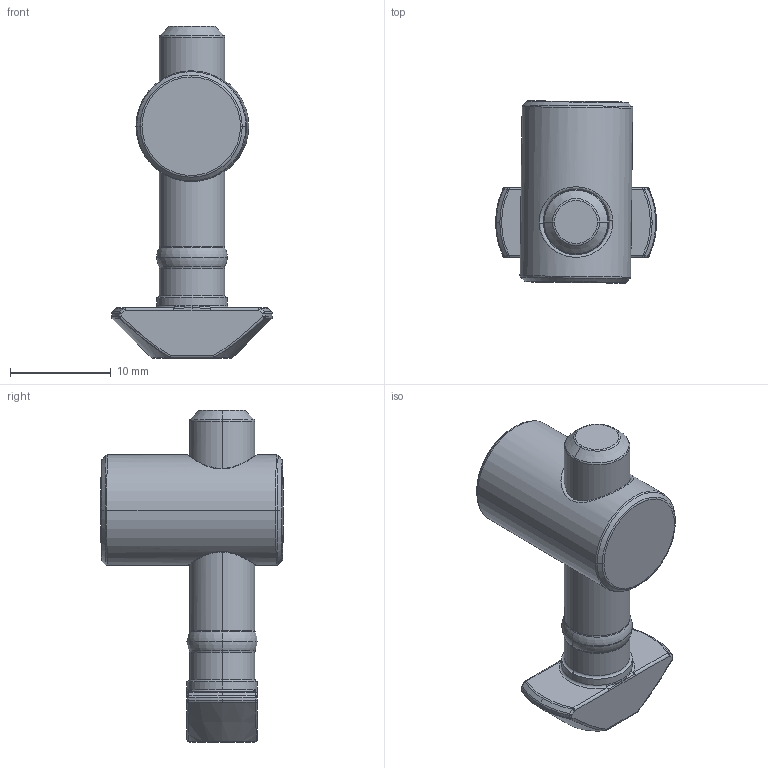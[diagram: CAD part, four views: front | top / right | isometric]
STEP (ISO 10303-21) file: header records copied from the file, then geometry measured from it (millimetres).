
FILE_DESCRIPTION (( 'STEP AP203' ), '1' );
FILE_NAME ('5212.STEP', '2016-04-10T13:02:00', ( '' ), ( '' ), 'SwSTEP 2.0', 'SolidWorks 2014', '' );
FILE_SCHEMA (( 'CONFIG_CONTROL_DESIGN' ));
Length unit declared in the file: millimetre
Products named in the file (3): 鍔錓 鵽鎀 90; Ãàéêà óäåðæèâàþùàÿ Ì8 îòâ 6.5; 5212
Assembly tree (2 placements, depth 2):
  5212
    鍔錓 鵽鎀 90
    Ãàéêà óäåðæèâàþùàÿ Ì8 îòâ 6.5
Bounding box: 16 x 18.12 x 33 mm (x, y, z)
Volume: 2253.9 mm3; surface area: 2060.3 mm2
Topology: 2 solids, 2 shells, 142 faces, 331 edges, 177 vertices
Faces by surface type: bspline 38, torus 37, cylinder 29, sphere 16, cone 12, plane 10
Entity records: 10685 total; most frequent: CARTESIAN_POINT 7518, ORIENTED_EDGE 630, DIRECTION 582, EDGE_CURVE 315, AXIS2_PLACEMENT_3D 268, VERTEX_POINT 177, CIRCLE 159, EDGE_LOOP 146
